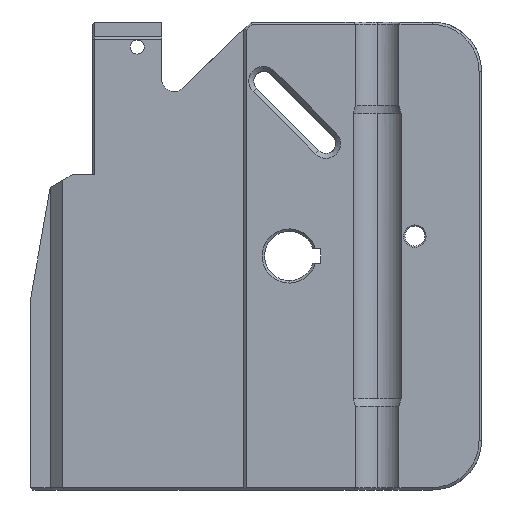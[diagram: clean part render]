
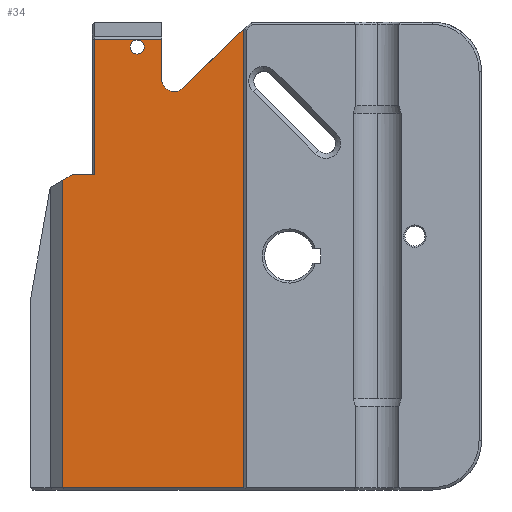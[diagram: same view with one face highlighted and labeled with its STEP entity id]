
A CAD part, left-side view. The second image highlights one B-rep face of the part: STEP entity #34.
In plain terms, the highlighted planar face has unit normal (-1, 0, 0).
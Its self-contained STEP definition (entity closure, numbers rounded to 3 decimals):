
#34 = ADVANCED_FACE ( 'NONE', ( #427, #2348 ), #5687, .T. ) ;
#40 = ORIENTED_EDGE ( 'NONE', *, *, #3433, .T. ) ;
#48 = VECTOR ( 'NONE', #3242, 1000. ) ;
#51 = LINE ( 'NONE', #3902, #2105 ) ;
#101 = VERTEX_POINT ( 'NONE', #2584 ) ;
#174 = EDGE_CURVE ( 'NONE', #1921, #3761, #5635, .T. ) ;
#199 = DIRECTION ( 'NONE',  ( -1., 0., 0. ) ) ;
#427 = FACE_OUTER_BOUND ( 'NONE', #6105, .T. ) ;
#473 = VERTEX_POINT ( 'NONE', #1121 ) ;
#568 = VECTOR ( 'NONE', #1169, 1000. ) ;
#582 = CARTESIAN_POINT ( 'NONE',  ( -21., 170.1, -64.309 ) ) ;
#606 = ORIENTED_EDGE ( 'NONE', *, *, #5823, .F. ) ;
#674 = LINE ( 'NONE', #5909, #5295 ) ;
#781 = VERTEX_POINT ( 'NONE', #3562 ) ;
#917 = ORIENTED_EDGE ( 'NONE', *, *, #1606, .T. ) ;
#918 = ORIENTED_EDGE ( 'NONE', *, *, #2126, .F. ) ;
#928 = DIRECTION ( 'NONE',  ( 0., 0., -1. ) ) ;
#1085 = LINE ( 'NONE', #3011, #1515 ) ;
#1115 = VECTOR ( 'NONE', #5397, 1000. ) ;
#1121 = CARTESIAN_POINT ( 'NONE',  ( -21., 157.1, -7. ) ) ;
#1139 = CARTESIAN_POINT ( 'NONE',  ( -21., 121.408, -26.853 ) ) ;
#1152 = ORIENTED_EDGE ( 'NONE', *, *, #2798, .F. ) ;
#1169 = DIRECTION ( 'NONE',  ( 0., -1., 0. ) ) ;
#1201 = VECTOR ( 'NONE', #3663, 1000. ) ;
#1275 = CARTESIAN_POINT ( 'NONE',  ( -21., 170.1, -189. ) ) ;
#1363 = CARTESIAN_POINT ( 'NONE',  ( -21., 96.5, -190. ) ) ;
#1439 = ORIENTED_EDGE ( 'NONE', *, *, #1614, .F. ) ;
#1515 = VECTOR ( 'NONE', #4934, 1000. ) ;
#1599 = EDGE_LOOP ( 'NONE', ( #1439, #3159 ) ) ;
#1606 = EDGE_CURVE ( 'NONE', #6082, #3761, #674, .T. ) ;
#1614 = EDGE_CURVE ( 'NONE', #781, #101, #2589, .T. ) ;
#1645 = LINE ( 'NONE', #3565, #568 ) ;
#1921 = VERTEX_POINT ( 'NONE', #1139 ) ;
#1982 = DIRECTION ( 'NONE',  ( 0., -1., 0. ) ) ;
#2015 = DIRECTION ( 'NONE',  ( 0., 1., 0. ) ) ;
#2041 = ORIENTED_EDGE ( 'NONE', *, *, #174, .F. ) ;
#2105 = VECTOR ( 'NONE', #1982, 1000. ) ;
#2108 = LINE ( 'NONE', #4385, #6242 ) ;
#2126 = EDGE_CURVE ( 'NONE', #3658, #5426, #1645, .T. ) ;
#2348 = FACE_BOUND ( 'NONE', #1599, .T. ) ;
#2456 = AXIS2_PLACEMENT_3D ( 'NONE', #1363, #4273, #6195 ) ;
#2584 = CARTESIAN_POINT ( 'NONE',  ( -21., 139.824, -13.02 ) ) ;
#2589 = CIRCLE ( 'NONE', #6016, 2.85 ) ;
#2649 = VERTEX_POINT ( 'NONE', #4772 ) ;
#2702 = EDGE_CURVE ( 'NONE', #473, #5426, #3546, .T. ) ;
#2705 = VERTEX_POINT ( 'NONE', #582 ) ;
#2724 = LINE ( 'NONE', #4672, #1201 ) ;
#2795 = CIRCLE ( 'NONE', #3599, 5. ) ;
#2798 = EDGE_CURVE ( 'NONE', #2705, #3658, #1085, .T. ) ;
#2876 = CARTESIAN_POINT ( 'NONE',  ( -21., 170.1, -190. ) ) ;
#3010 = AXIS2_PLACEMENT_3D ( 'NONE', #5560, #5529, #5114 ) ;
#3011 = CARTESIAN_POINT ( 'NONE',  ( -21., 169.326, -63.862 ) ) ;
#3113 = VECTOR ( 'NONE', #928, 1000. ) ;
#3159 = ORIENTED_EDGE ( 'NONE', *, *, #4708, .F. ) ;
#3242 = DIRECTION ( 'NONE',  ( 0., -0.721, 0.693 ) ) ;
#3363 = CARTESIAN_POINT ( 'NONE',  ( -21., 166.1, -62. ) ) ;
#3433 = EDGE_CURVE ( 'NONE', #5391, #6082, #51, .T. ) ;
#3546 = LINE ( 'NONE', #4050, #1115 ) ;
#3562 = CARTESIAN_POINT ( 'NONE',  ( -21., 139.824, -7.32 ) ) ;
#3565 = CARTESIAN_POINT ( 'NONE',  ( -21., 158.1, -62. ) ) ;
#3599 = AXIS2_PLACEMENT_3D ( 'NONE', #5207, #3732, #4652 ) ;
#3658 = VERTEX_POINT ( 'NONE', #3363 ) ;
#3663 = DIRECTION ( 'NONE',  ( 0., 0., -1. ) ) ;
#3711 = CARTESIAN_POINT ( 'NONE',  ( -21., 189.987, -92.842 ) ) ;
#3732 = DIRECTION ( 'NONE',  ( -1., 0., 0. ) ) ;
#3761 = VERTEX_POINT ( 'NONE', #5258 ) ;
#3807 = CIRCLE ( 'NONE', #3010, 2.85 ) ;
#3902 = CARTESIAN_POINT ( 'NONE',  ( -21., 96.5, -189. ) ) ;
#4050 = CARTESIAN_POINT ( 'NONE',  ( -21., 157.1, -62. ) ) ;
#4070 = ORIENTED_EDGE ( 'NONE', *, *, #4762, .T. ) ;
#4241 = LINE ( 'NONE', #2876, #3113 ) ;
#4273 = DIRECTION ( 'NONE',  ( -1., 0., 0. ) ) ;
#4385 = CARTESIAN_POINT ( 'NONE',  ( -21., 158.1, -7. ) ) ;
#4447 = VERTEX_POINT ( 'NONE', #6000 ) ;
#4455 = EDGE_CURVE ( 'NONE', #4447, #2649, #2724, .T. ) ;
#4466 = DIRECTION ( 'NONE',  ( 0., 0., 1. ) ) ;
#4528 = DIRECTION ( 'NONE',  ( 0., 0., 1. ) ) ;
#4575 = ORIENTED_EDGE ( 'NONE', *, *, #2702, .T. ) ;
#4652 = DIRECTION ( 'NONE',  ( 0., 0., 1. ) ) ;
#4664 = CARTESIAN_POINT ( 'NONE',  ( -21., 157.1, -62. ) ) ;
#4672 = CARTESIAN_POINT ( 'NONE',  ( -21., 129.874, -190. ) ) ;
#4708 = EDGE_CURVE ( 'NONE', #101, #781, #3807, .T. ) ;
#4762 = EDGE_CURVE ( 'NONE', #2705, #5391, #4241, .T. ) ;
#4772 = CARTESIAN_POINT ( 'NONE',  ( -21., 129.874, -23.25 ) ) ;
#4825 = ORIENTED_EDGE ( 'NONE', *, *, #4455, .F. ) ;
#4933 = CARTESIAN_POINT ( 'NONE',  ( -21., 139.824, -10.17 ) ) ;
#4934 = DIRECTION ( 'NONE',  ( 0., -0.866, 0.5 ) ) ;
#5114 = DIRECTION ( 'NONE',  ( 0., 0., 1. ) ) ;
#5173 = ORIENTED_EDGE ( 'NONE', *, *, #6141, .T. ) ;
#5207 = CARTESIAN_POINT ( 'NONE',  ( -21., 124.874, -23.25 ) ) ;
#5258 = CARTESIAN_POINT ( 'NONE',  ( -21., 96.5, -2.887 ) ) ;
#5295 = VECTOR ( 'NONE', #4528, 1000. ) ;
#5391 = VERTEX_POINT ( 'NONE', #1275 ) ;
#5397 = DIRECTION ( 'NONE',  ( 0., 0., -1. ) ) ;
#5426 = VERTEX_POINT ( 'NONE', #4664 ) ;
#5529 = DIRECTION ( 'NONE',  ( -1., 0., 0. ) ) ;
#5560 = CARTESIAN_POINT ( 'NONE',  ( -21., 139.824, -10.17 ) ) ;
#5635 = LINE ( 'NONE', #3711, #48 ) ;
#5687 = PLANE ( 'NONE',  #2456 ) ;
#5793 = CARTESIAN_POINT ( 'NONE',  ( -21., 96.5, -189. ) ) ;
#5823 = EDGE_CURVE ( 'NONE', #2649, #1921, #2795, .T. ) ;
#5909 = CARTESIAN_POINT ( 'NONE',  ( -21., 96.5, -190. ) ) ;
#6000 = CARTESIAN_POINT ( 'NONE',  ( -21., 129.874, -7. ) ) ;
#6016 = AXIS2_PLACEMENT_3D ( 'NONE', #4933, #199, #4466 ) ;
#6082 = VERTEX_POINT ( 'NONE', #5793 ) ;
#6105 = EDGE_LOOP ( 'NONE', ( #4825, #5173, #4575, #918, #1152, #4070, #40, #917, #2041, #606 ) ) ;
#6141 = EDGE_CURVE ( 'NONE', #4447, #473, #2108, .T. ) ;
#6195 = DIRECTION ( 'NONE',  ( 0., 0., 1. ) ) ;
#6242 = VECTOR ( 'NONE', #2015, 1000. ) ;
